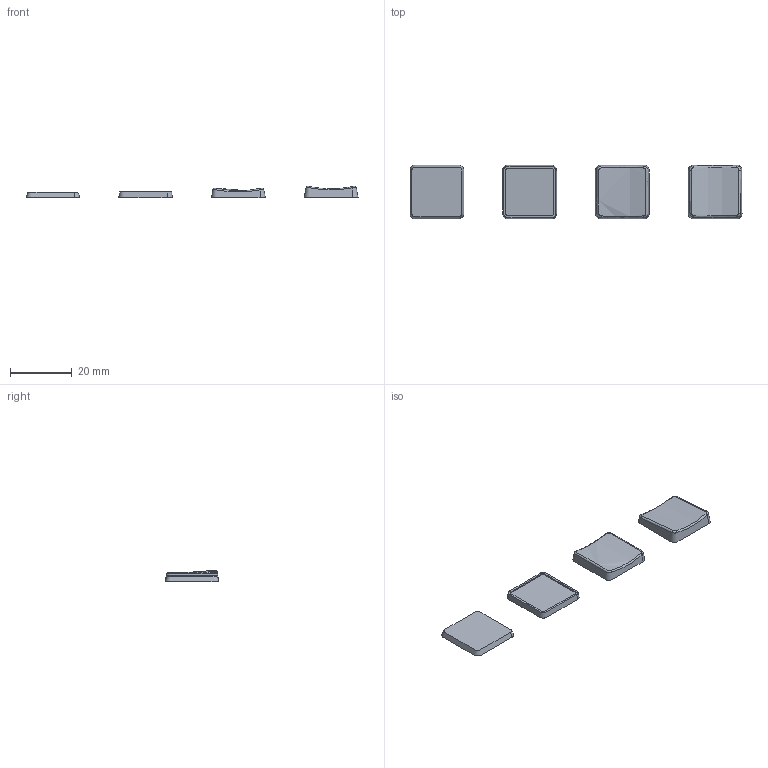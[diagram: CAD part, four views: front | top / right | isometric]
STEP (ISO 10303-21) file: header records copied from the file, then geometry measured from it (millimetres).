
FILE_DESCRIPTION(/* description */ (''),/* implementation_level */ '2;1');
FILE_NAME(/* name */ 'cap',/* time_stamp */ '2020-05-12T21:24:55+02:00',/* author */ (''),/* organization */ (''),/* preprocessor_version */ 'ST-DEVELOPER v10',/* originating_system */ '',/* authorisation */ '');
FILE_SCHEMA (('CONFIG_CONTROL_DESIGN'));
Length unit declared in the file: millimetre
Products named in the file (1): 1
Bounding box: 107.4 x 17.4 x 3.71 mm (x, y, z)
Volume: 2169.8 mm3; surface area: 3180.3 mm2
Topology: 4 solids, 4 shells, 277 faces, 658 edges, 370 vertices
Faces by surface type: bspline 178, plane 99
Entity records: 8197 total; most frequent: CARTESIAN_POINT 4283, ORIENTED_EDGE 1252, EDGE_CURVE 626, B_SPLINE_CURVE_WITH_KNOTS 376, VERTEX_POINT 370, EDGE_LOOP 290, ADVANCED_FACE 277, FACE_OUTER_BOUND 277
